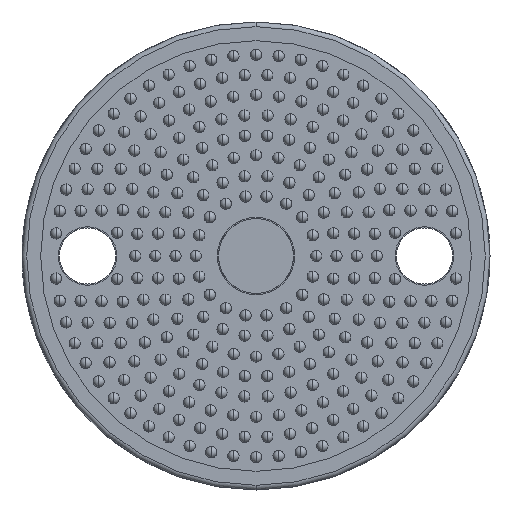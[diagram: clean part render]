
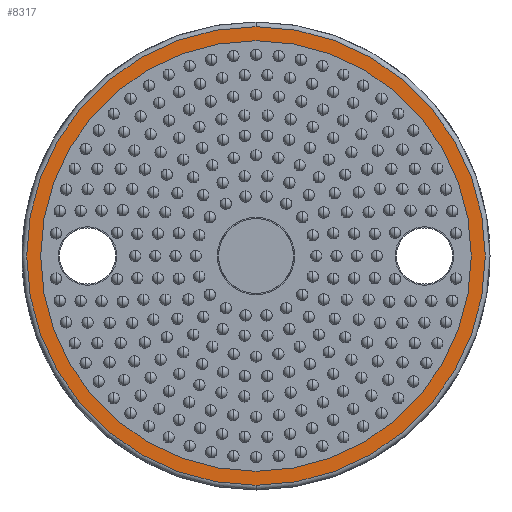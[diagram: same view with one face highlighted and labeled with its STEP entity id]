
A CAD part, front view. The second image highlights one B-rep face of the part: STEP entity #8317.
In plain terms, the highlighted planar face has unit normal (0, -1, 0).
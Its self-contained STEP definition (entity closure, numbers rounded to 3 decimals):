
#3133 = DIRECTION ( 'NONE',  ( 0., 0., -1. ) ) ;
#3161 = PLANE ( 'NONE',  #10472 ) ;
#4142 = CARTESIAN_POINT ( 'NONE',  ( 0., 0., 46. ) ) ;
#4794 = AXIS2_PLACEMENT_3D ( 'NONE', #35100, #22013, #3133 ) ;
#6569 = EDGE_CURVE ( 'NONE', #34977, #28104, #28728, .T. ) ;
#6978 = EDGE_CURVE ( 'NONE', #10102, #31078, #12270, .T. ) ;
#7465 = DIRECTION ( 'NONE',  ( 0., 0., -1. ) ) ;
#7734 = AXIS2_PLACEMENT_3D ( 'NONE', #39592, #39730, #20408 ) ;
#8317 = ADVANCED_FACE ( 'NONE', ( #35295, #39375 ), #3161, .T. ) ;
#10102 = VERTEX_POINT ( 'NONE', #26527 ) ;
#10472 = AXIS2_PLACEMENT_3D ( 'NONE', #34730, #18541, #34595 ) ;
#11724 = AXIS2_PLACEMENT_3D ( 'NONE', #20606, #20333, #7465 ) ;
#12270 = CIRCLE ( 'NONE', #25417, 46. ) ;
#16037 = EDGE_LOOP ( 'NONE', ( #31752, #22641 ) ) ;
#18541 = DIRECTION ( 'NONE',  ( 0., -1., 0. ) ) ;
#18595 = DIRECTION ( 'NONE',  ( 0., -1., 0. ) ) ;
#19890 = CARTESIAN_POINT ( 'NONE',  ( 0., 0., 49. ) ) ;
#20333 = DIRECTION ( 'NONE',  ( 0., -1., 0. ) ) ;
#20408 = DIRECTION ( 'NONE',  ( 0., 0., -1. ) ) ;
#20606 = CARTESIAN_POINT ( 'NONE',  ( 0., 0., 0. ) ) ;
#21971 = ORIENTED_EDGE ( 'NONE', *, *, #23062, .F. ) ;
#22013 = DIRECTION ( 'NONE',  ( 0., -1., 0. ) ) ;
#22641 = ORIENTED_EDGE ( 'NONE', *, *, #38117, .T. ) ;
#23062 = EDGE_CURVE ( 'NONE', #31078, #10102, #29674, .T. ) ;
#25417 = AXIS2_PLACEMENT_3D ( 'NONE', #37916, #18595, #41158 ) ;
#26527 = CARTESIAN_POINT ( 'NONE',  ( 0., 0., -46. ) ) ;
#26611 = CARTESIAN_POINT ( 'NONE',  ( 0., 0., -49. ) ) ;
#28104 = VERTEX_POINT ( 'NONE', #19890 ) ;
#28728 = CIRCLE ( 'NONE', #4794, 49. ) ;
#29674 = CIRCLE ( 'NONE', #11724, 46. ) ;
#31078 = VERTEX_POINT ( 'NONE', #4142 ) ;
#31752 = ORIENTED_EDGE ( 'NONE', *, *, #6569, .T. ) ;
#32924 = CIRCLE ( 'NONE', #7734, 49. ) ;
#34595 = DIRECTION ( 'NONE',  ( 0., 0., -1. ) ) ;
#34730 = CARTESIAN_POINT ( 'NONE',  ( -44.5, 0., 0. ) ) ;
#34977 = VERTEX_POINT ( 'NONE', #26611 ) ;
#35100 = CARTESIAN_POINT ( 'NONE',  ( 0., 0., 0. ) ) ;
#35295 = FACE_OUTER_BOUND ( 'NONE', #16037, .T. ) ;
#35669 = EDGE_LOOP ( 'NONE', ( #21971, #37400 ) ) ;
#37400 = ORIENTED_EDGE ( 'NONE', *, *, #6978, .F. ) ;
#37916 = CARTESIAN_POINT ( 'NONE',  ( 0., 0., 0. ) ) ;
#38117 = EDGE_CURVE ( 'NONE', #28104, #34977, #32924, .T. ) ;
#39375 = FACE_BOUND ( 'NONE', #35669, .T. ) ;
#39592 = CARTESIAN_POINT ( 'NONE',  ( 0., 0., 0. ) ) ;
#39730 = DIRECTION ( 'NONE',  ( 0., -1., 0. ) ) ;
#41158 = DIRECTION ( 'NONE',  ( 0., 0., -1. ) ) ;
